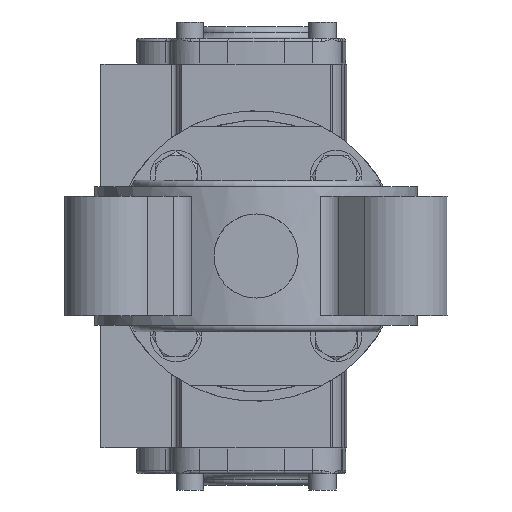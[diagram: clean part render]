
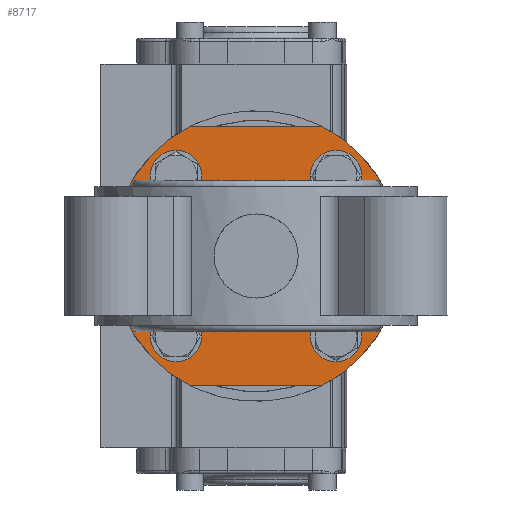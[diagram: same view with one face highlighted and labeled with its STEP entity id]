
A CAD part, front view. The second image highlights one B-rep face of the part: STEP entity #8717.
In plain terms, the highlighted planar face has unit normal (0, -1, 0).
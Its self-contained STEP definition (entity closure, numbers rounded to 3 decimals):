
#365 = CIRCLE ( 'NONE', #26293, 45. ) ;
#434 = CARTESIAN_POINT ( 'NONE',  ( 20.616, 110., 40. ) ) ;
#682 = CARTESIAN_POINT ( 'NONE',  ( 24.749, 110., 24.749 ) ) ;
#757 = EDGE_CURVE ( 'NONE', #2722, #11701, #21266, .T. ) ;
#1127 = VERTEX_POINT ( 'NONE', #18357 ) ;
#1601 = CARTESIAN_POINT ( 'NONE',  ( 0., 110., 21.5 ) ) ;
#1660 = DIRECTION ( 'NONE',  ( -1., 0., 0. ) ) ;
#1976 = DIRECTION ( 'NONE',  ( 0., 1., 0. ) ) ;
#2014 = EDGE_CURVE ( 'NONE', #2723, #24127, #6819, .T. ) ;
#2188 = AXIS2_PLACEMENT_3D ( 'NONE', #12908, #25190, #13032 ) ;
#2278 = CIRCLE ( 'NONE', #21002, 4.5 ) ;
#2600 = ORIENTED_EDGE ( 'NONE', *, *, #2014, .T. ) ;
#2610 = CARTESIAN_POINT ( 'NONE',  ( 24.749, 110., -24.749 ) ) ;
#2638 = DIRECTION ( 'NONE',  ( 0., 0., 1. ) ) ;
#2722 = VERTEX_POINT ( 'NONE', #9195 ) ;
#2723 = VERTEX_POINT ( 'NONE', #25482 ) ;
#2792 = DIRECTION ( 'NONE',  ( 0., 0., 1. ) ) ;
#2994 = VECTOR ( 'NONE', #1660, 1000. ) ;
#3010 = CARTESIAN_POINT ( 'NONE',  ( -20.616, 110., -40. ) ) ;
#3169 = ORIENTED_EDGE ( 'NONE', *, *, #18314, .T. ) ;
#3488 = CARTESIAN_POINT ( 'NONE',  ( 0., 110., 0. ) ) ;
#3555 = EDGE_CURVE ( 'NONE', #20059, #13813, #13665, .T. ) ;
#3802 = EDGE_CURVE ( 'NONE', #16794, #1127, #19666, .T. ) ;
#3899 = FACE_BOUND ( 'NONE', #8889, .T. ) ;
#4763 = DIRECTION ( 'NONE',  ( 0., 1., 0. ) ) ;
#5183 = CARTESIAN_POINT ( 'NONE',  ( 24.749, 110., -24.749 ) ) ;
#5790 = AXIS2_PLACEMENT_3D ( 'NONE', #5183, #21196, #2792 ) ;
#5861 = DIRECTION ( 'NONE',  ( 0., 0., 1. ) ) ;
#6014 = AXIS2_PLACEMENT_3D ( 'NONE', #2610, #17126, #10585 ) ;
#6317 = EDGE_LOOP ( 'NONE', ( #8866, #3169 ) ) ;
#6340 = CARTESIAN_POINT ( 'NONE',  ( -24.749, 110., -24.749 ) ) ;
#6788 = ORIENTED_EDGE ( 'NONE', *, *, #22288, .F. ) ;
#6819 = CIRCLE ( 'NONE', #2188, 4.5 ) ;
#7363 = ORIENTED_EDGE ( 'NONE', *, *, #23499, .T. ) ;
#7405 = DIRECTION ( 'NONE',  ( 0., 0., 1. ) ) ;
#7645 = ORIENTED_EDGE ( 'NONE', *, *, #3555, .T. ) ;
#7816 = AXIS2_PLACEMENT_3D ( 'NONE', #3488, #19776, #11620 ) ;
#8028 = AXIS2_PLACEMENT_3D ( 'NONE', #22166, #11870, #5861 ) ;
#8717 = ADVANCED_FACE ( 'NONE', ( #16018, #14019, #22193, #3899, #10029, #18186 ), #26289, .F. ) ;
#8866 = ORIENTED_EDGE ( 'NONE', *, *, #9054, .T. ) ;
#8889 = EDGE_LOOP ( 'NONE', ( #9521, #7645 ) ) ;
#9054 = EDGE_CURVE ( 'NONE', #22474, #20102, #9308, .T. ) ;
#9195 = CARTESIAN_POINT ( 'NONE',  ( -24.749, 110., -29.249 ) ) ;
#9308 = CIRCLE ( 'NONE', #8028, 21.5 ) ;
#9521 = ORIENTED_EDGE ( 'NONE', *, *, #12683, .T. ) ;
#10029 = FACE_BOUND ( 'NONE', #13114, .T. ) ;
#10135 = CIRCLE ( 'NONE', #21217, 4.5 ) ;
#10160 = AXIS2_PLACEMENT_3D ( 'NONE', #6340, #12747, #22523 ) ;
#10211 = ORIENTED_EDGE ( 'NONE', *, *, #22746, .T. ) ;
#10585 = DIRECTION ( 'NONE',  ( 0., 0., 1. ) ) ;
#11121 = LINE ( 'NONE', #3010, #2994 ) ;
#11620 = DIRECTION ( 'NONE',  ( 0., 0., 1. ) ) ;
#11701 = VERTEX_POINT ( 'NONE', #18121 ) ;
#11870 = DIRECTION ( 'NONE',  ( 0., 1., 0. ) ) ;
#12165 = CARTESIAN_POINT ( 'NONE',  ( 0., 110., 0. ) ) ;
#12365 = VERTEX_POINT ( 'NONE', #12411 ) ;
#12411 = CARTESIAN_POINT ( 'NONE',  ( -20.616, 110., 40. ) ) ;
#12632 = LINE ( 'NONE', #16788, #26135 ) ;
#12683 = EDGE_CURVE ( 'NONE', #13813, #20059, #2278, .T. ) ;
#12747 = DIRECTION ( 'NONE',  ( 0., 1., 0. ) ) ;
#12908 = CARTESIAN_POINT ( 'NONE',  ( -24.749, 110., 24.749 ) ) ;
#13032 = DIRECTION ( 'NONE',  ( 0., 0., 1. ) ) ;
#13114 = EDGE_LOOP ( 'NONE', ( #10211, #2600 ) ) ;
#13665 = CIRCLE ( 'NONE', #22642, 4.5 ) ;
#13726 = VERTEX_POINT ( 'NONE', #434 ) ;
#13813 = VERTEX_POINT ( 'NONE', #17830 ) ;
#14019 = FACE_BOUND ( 'NONE', #19698, .T. ) ;
#14075 = CARTESIAN_POINT ( 'NONE',  ( 24.749, 110., 20.249 ) ) ;
#15339 = DIRECTION ( 'NONE',  ( 0., 0., 1. ) ) ;
#15400 = DIRECTION ( 'NONE',  ( 0., 0., 1. ) ) ;
#15705 = DIRECTION ( 'NONE',  ( 0., 0., 1. ) ) ;
#15984 = CIRCLE ( 'NONE', #25767, 45. ) ;
#16018 = FACE_BOUND ( 'NONE', #6317, .T. ) ;
#16034 = EDGE_LOOP ( 'NONE', ( #21620, #19225, #6788, #18534 ) ) ;
#16088 = EDGE_CURVE ( 'NONE', #25349, #18343, #11121, .T. ) ;
#16298 = CARTESIAN_POINT ( 'NONE',  ( 20.616, 110., -40. ) ) ;
#16788 = CARTESIAN_POINT ( 'NONE',  ( -20.616, 110., 40. ) ) ;
#16794 = VERTEX_POINT ( 'NONE', #20644 ) ;
#17126 = DIRECTION ( 'NONE',  ( 0., 1., 0. ) ) ;
#17697 = CARTESIAN_POINT ( 'NONE',  ( 0., 110., 0. ) ) ;
#17738 = CARTESIAN_POINT ( 'NONE',  ( 24.749, 110., 24.749 ) ) ;
#17830 = CARTESIAN_POINT ( 'NONE',  ( 24.749, 110., 29.249 ) ) ;
#18121 = CARTESIAN_POINT ( 'NONE',  ( -24.749, 110., -20.249 ) ) ;
#18139 = CARTESIAN_POINT ( 'NONE',  ( -24.749, 110., -24.749 ) ) ;
#18186 = FACE_OUTER_BOUND ( 'NONE', #16034, .T. ) ;
#18314 = EDGE_CURVE ( 'NONE', #20102, #22474, #19357, .T. ) ;
#18343 = VERTEX_POINT ( 'NONE', #24548 ) ;
#18357 = CARTESIAN_POINT ( 'NONE',  ( 24.749, 110., -20.249 ) ) ;
#18534 = ORIENTED_EDGE ( 'NONE', *, *, #19708, .F. ) ;
#19225 = ORIENTED_EDGE ( 'NONE', *, *, #16088, .F. ) ;
#19357 = CIRCLE ( 'NONE', #7816, 21.5 ) ;
#19666 = CIRCLE ( 'NONE', #6014, 4.5 ) ;
#19698 = EDGE_LOOP ( 'NONE', ( #7363, #25325 ) ) ;
#19708 = EDGE_CURVE ( 'NONE', #12365, #13726, #12632, .T. ) ;
#19776 = DIRECTION ( 'NONE',  ( 0., 1., 0. ) ) ;
#19986 = AXIS2_PLACEMENT_3D ( 'NONE', #18139, #25487, #15339 ) ;
#20059 = VERTEX_POINT ( 'NONE', #14075 ) ;
#20102 = VERTEX_POINT ( 'NONE', #25144 ) ;
#20319 = DIRECTION ( 'NONE',  ( 0., 1., 0. ) ) ;
#20644 = CARTESIAN_POINT ( 'NONE',  ( 24.749, 110., -29.249 ) ) ;
#20788 = DIRECTION ( 'NONE',  ( 1., 0., 0. ) ) ;
#20809 = EDGE_CURVE ( 'NONE', #18343, #12365, #15984, .T. ) ;
#20816 = AXIS2_PLACEMENT_3D ( 'NONE', #12165, #20319, #24691 ) ;
#20833 = CIRCLE ( 'NONE', #19986, 4.5 ) ;
#21002 = AXIS2_PLACEMENT_3D ( 'NONE', #17738, #25851, #15705 ) ;
#21148 = CARTESIAN_POINT ( 'NONE',  ( -24.749, 110., 29.249 ) ) ;
#21196 = DIRECTION ( 'NONE',  ( 0., 1., 0. ) ) ;
#21217 = AXIS2_PLACEMENT_3D ( 'NONE', #25545, #25025, #2638 ) ;
#21259 = EDGE_CURVE ( 'NONE', #1127, #16794, #22867, .T. ) ;
#21266 = CIRCLE ( 'NONE', #10160, 4.5 ) ;
#21620 = ORIENTED_EDGE ( 'NONE', *, *, #20809, .F. ) ;
#22166 = CARTESIAN_POINT ( 'NONE',  ( 0., 110., 0. ) ) ;
#22193 = FACE_BOUND ( 'NONE', #25833, .T. ) ;
#22288 = EDGE_CURVE ( 'NONE', #13726, #25349, #365, .T. ) ;
#22474 = VERTEX_POINT ( 'NONE', #1601 ) ;
#22523 = DIRECTION ( 'NONE',  ( 0., 0., 1. ) ) ;
#22642 = AXIS2_PLACEMENT_3D ( 'NONE', #682, #4763, #15400 ) ;
#22746 = EDGE_CURVE ( 'NONE', #24127, #2723, #10135, .T. ) ;
#22867 = CIRCLE ( 'NONE', #5790, 4.5 ) ;
#23484 = DIRECTION ( 'NONE',  ( 0., 0., 1. ) ) ;
#23499 = EDGE_CURVE ( 'NONE', #11701, #2722, #20833, .T. ) ;
#24127 = VERTEX_POINT ( 'NONE', #21148 ) ;
#24548 = CARTESIAN_POINT ( 'NONE',  ( -20.616, 110., -40. ) ) ;
#24691 = DIRECTION ( 'NONE',  ( 0., 0., 1. ) ) ;
#25025 = DIRECTION ( 'NONE',  ( 0., 1., 0. ) ) ;
#25144 = CARTESIAN_POINT ( 'NONE',  ( 0., 110., -21.5 ) ) ;
#25190 = DIRECTION ( 'NONE',  ( 0., 1., 0. ) ) ;
#25195 = CARTESIAN_POINT ( 'NONE',  ( 0., 110., 0. ) ) ;
#25325 = ORIENTED_EDGE ( 'NONE', *, *, #757, .T. ) ;
#25349 = VERTEX_POINT ( 'NONE', #16298 ) ;
#25446 = DIRECTION ( 'NONE',  ( 0., 1., 0. ) ) ;
#25482 = CARTESIAN_POINT ( 'NONE',  ( -24.749, 110., 20.249 ) ) ;
#25487 = DIRECTION ( 'NONE',  ( 0., 1., 0. ) ) ;
#25545 = CARTESIAN_POINT ( 'NONE',  ( -24.749, 110., 24.749 ) ) ;
#25767 = AXIS2_PLACEMENT_3D ( 'NONE', #17697, #1976, #7405 ) ;
#25833 = EDGE_LOOP ( 'NONE', ( #25997, #26134 ) ) ;
#25851 = DIRECTION ( 'NONE',  ( 0., 1., 0. ) ) ;
#25997 = ORIENTED_EDGE ( 'NONE', *, *, #21259, .T. ) ;
#26134 = ORIENTED_EDGE ( 'NONE', *, *, #3802, .T. ) ;
#26135 = VECTOR ( 'NONE', #20788, 1000. ) ;
#26289 = PLANE ( 'NONE',  #20816 ) ;
#26293 = AXIS2_PLACEMENT_3D ( 'NONE', #25195, #25446, #23484 ) ;
